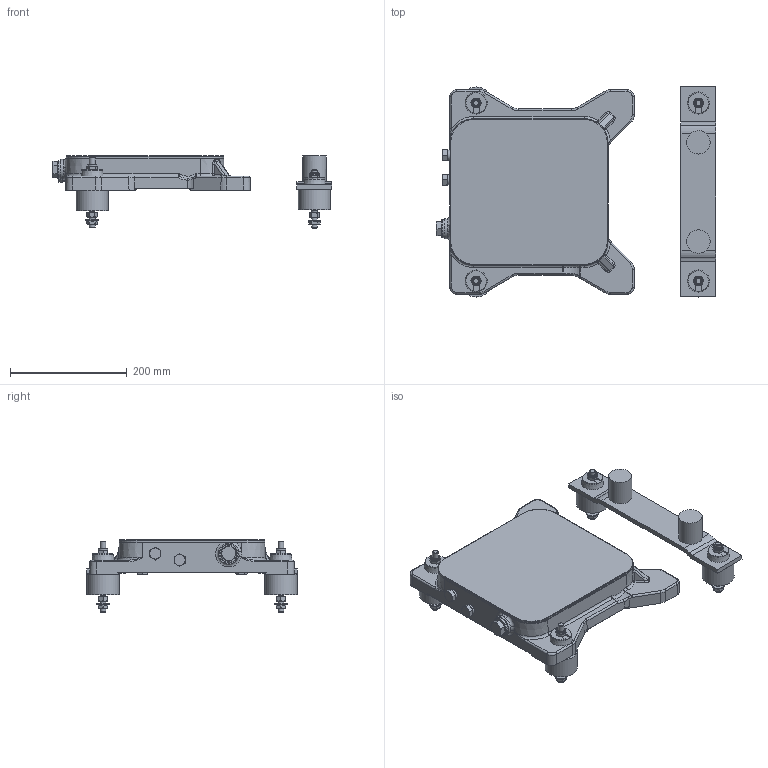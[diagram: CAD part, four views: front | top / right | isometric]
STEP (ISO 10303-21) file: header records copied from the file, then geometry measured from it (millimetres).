
FILE_DESCRIPTION(/* description */ (''),/* implementation_level */ '2;1');
FILE_NAME(/* name */ '6JE-6HE-6GE-Bodenplatte MARINE.stp',/* time_stamp */ '2024-06-03T15:51:25+02:00',/* author */ (''),/* organization */ (''),/* preprocessor_version */ 'ST-DEVELOPER v19.4',/* originating_system */ 'SIEMENS PLM Software NX2212.8901',/* authorisation */ '');
FILE_SCHEMA (('AUTOMOTIVE_DESIGN { 1 0 10303 214 3 1 1 1 }'));
Length unit declared in the file: millimetre
Products named in the file (4): 200259644ugm001_00; 200259135ugm001_00; 200682031ugm001_00; 200682076ugm001_00
Assembly tree (5 placements, depth 2):
  200682076ugm001_00
    200682031ugm001_00
    200259135ugm001_00  x2
    200259644ugm001_00  x2
Bounding box: 479.8 x 360 x 123.5 mm (x, y, z)
Volume: 4691890 mm3; surface area: 451640.7 mm2
Topology: 10 solids, 20 shells, 1484 faces, 3392 edges, 1996 vertices
Faces by surface type: plane 618, cylinder 321, cone 290, bspline 162, torus 91, sphere 2
Full cylindrical faces by diameter (mm): 8 x21, 9 x4, 9.17 x4, 9.732 x18, 10 x24, 11 x10, 12.2 x2, 16 x25, 17.145 x2, 18 x21, 20 x2, 21 x4, 22 x4, 27 x2, 31 x1, 35 x1, 40 x2, 55 x4
Entity records: 36629 total; most frequent: CARTESIAN_POINT 9632, DIRECTION 5435, ORIENTED_EDGE 5042, EDGE_CURVE 2521, AXIS2_PLACEMENT_3D 2197, VERTEX_POINT 1626, EDGE_LOOP 1572, ADVANCED_FACE 1249
